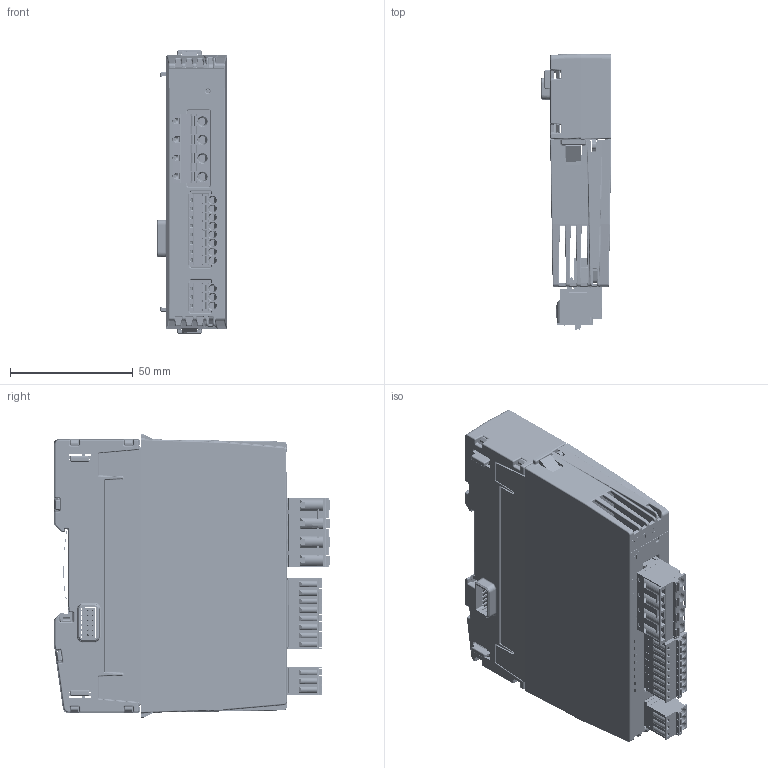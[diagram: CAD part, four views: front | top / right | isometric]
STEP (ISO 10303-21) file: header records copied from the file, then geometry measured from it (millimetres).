
FILE_DESCRIPTION(/* description */ (''),/* implementation_level */ '2;1');
FILE_NAME(/* name */ 'C:\Users\Public\Documents\Autodesk\Inventor 2023\PM04A_Simplified+BackBB21B.stp',/* time_stamp */ '2024-10-18T22:20:26+02:00',/* author */ ('shoma'),/* organization */ (''),/* preprocessor_version */ 'ST-DEVELOPER v19',/* originating_system */ 'Autodesk Inventor 2023',/* authorisation */ '');
FILE_SCHEMA (('AUTOMOTIVE_DESIGN { 1 0 10303 214 3 1 1 }'));
Products named in the file (1): PM04A_Simplified+BackBB21B
Bounding box: 28.9 x 112.6 x 115.5 mm (x, y, z)
Volume: 134090.5 mm3; surface area: 87889.8 mm2
Topology: 8 solids, 41 shells, 8250 faces, 22043 edges, 13857 vertices
Faces by surface type: plane 5318, cylinder 2059, bspline 529, sphere 163, cone 135, torus 46
Full cylindrical faces by diameter (mm): 0.296 x2, 0.3 x36, 0.434 x1, 0.457 x2, 0.7 x36, 0.8 x6, 0.85 x24, 0.9 x8, 1.17 x11, 1.25 x11, 1.3 x11, 1.4 x8, 1.5 x4, 1.6 x9, 2.35 x2, 2.5 x1, 2.8 x3, 3 x5, 3.1 x11, 3.25 x2, 4 x4
Entity records: 279430 total; most frequent: CARTESIAN_POINT 65088, ORIENTED_EDGE 43740, DIRECTION 41690, EDGE_CURVE 21870, LINE 15944, VECTOR 15944, VERTEX_POINT 13853, AXIS2_PLACEMENT_3D 12873
